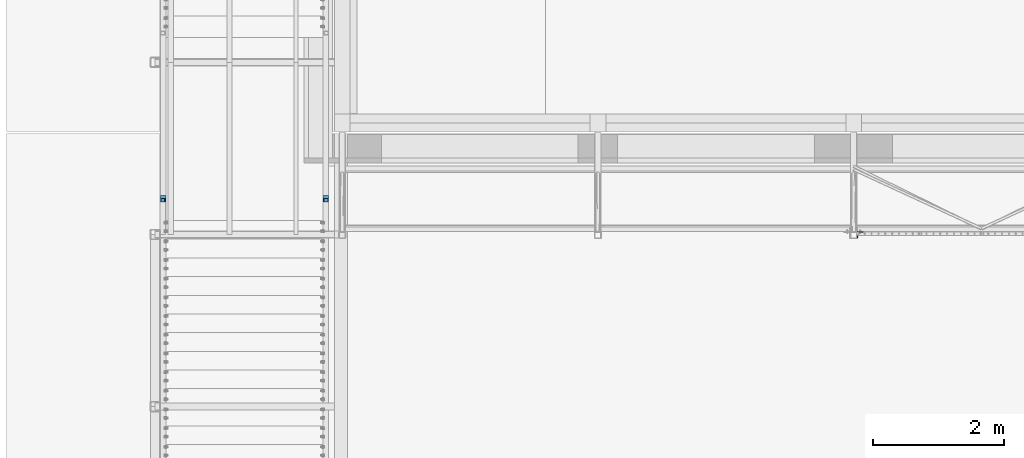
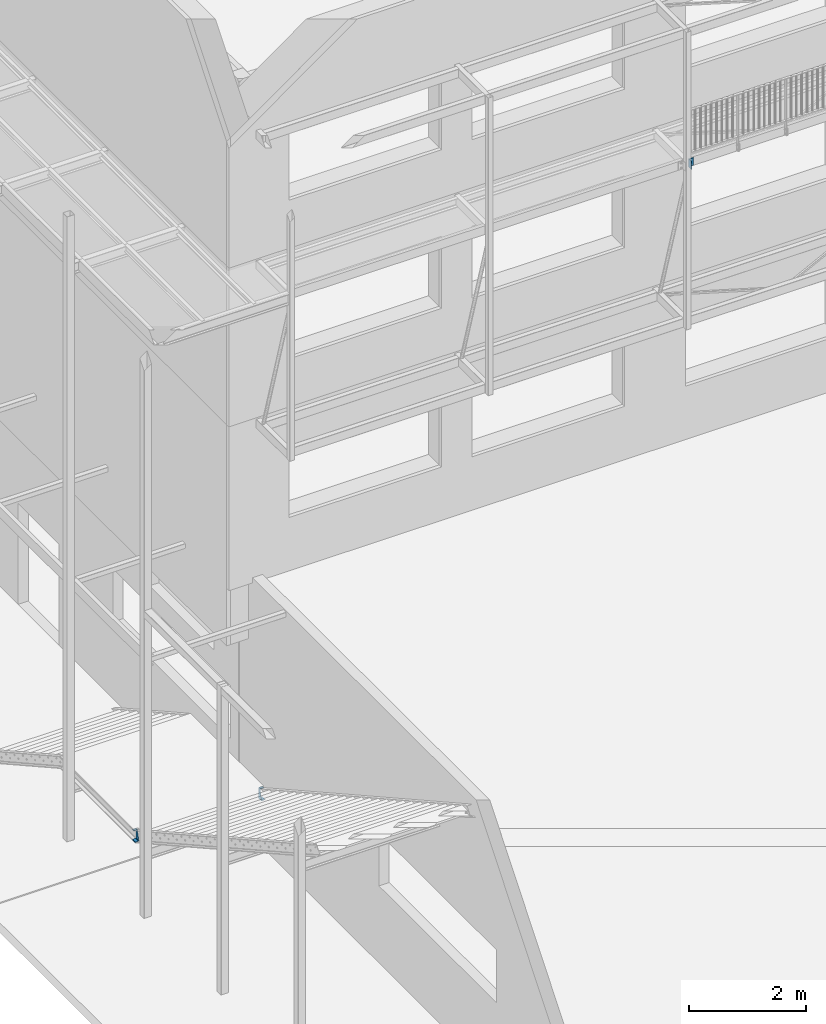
# One storey, part 34 of 78: 3 beams, 3 elements without a shape of their own.
"""IFC2X3 building model written with IfcOpenShell, lengths in millimetres."""

from ifc_helpers import new_model, si_unit, frame, origin_with_axes, origin_2d_with_axis, place, context, subcontext, project, spatial, l_section, u_section, extrude, clip, halfspace, material, type_object, element, aggregate, save


model = new_model("IFC2X3")

# Units and contexts
model_context = context("Model", 3, precision=1e-05, world=origin_with_axes())
body_context = subcontext(model_context, "Body", "Model", "MODEL_VIEW")
ifc_project = project(units=[si_unit("LENGTHUNIT", "METRE", prefix="MILLI"), si_unit("AREAUNIT", "SQUARE_METRE"), si_unit("VOLUMEUNIT", "CUBIC_METRE"), si_unit("MASSUNIT", "GRAM", prefix="KILO"), si_unit("TIMEUNIT", "SECOND"), si_unit("PLANEANGLEUNIT", "RADIAN"), si_unit("SOLIDANGLEUNIT", "STERADIAN"), si_unit("THERMODYNAMICTEMPERATUREUNIT", "DEGREE_CELSIUS"), si_unit("LUMINOUSINTENSITYUNIT", "LUMEN")], contexts=[model_context])

# Site, building, storey
site_placement = place(None, origin_with_axes())
site = spatial("IfcSite", under=ifc_project, at=site_placement, Name="Site", CompositionType="ELEMENT")
building_placement = place(site_placement, origin_with_axes())
building = spatial("IfcBuilding", under=site, at=building_placement, Name="Undefined", CompositionType="ELEMENT")
storey_placement = place(building_placement, origin_with_axes())
storey = spatial("IfcBuildingStorey", under=building, at=storey_placement, Name="Undefined", CompositionType="ELEMENT", Elevation=0.0)

# Assembly, beam
assembly_1_placement = place(storey_placement, origin_with_axes())
assembly_1 = element("IfcElementAssembly", 1, at=assembly_1_placement, inside=storey, AssemblyPlace="NOTDEFINED", PredefinedType="RIGID_FRAME")
ifc_material = material(Name="STEEL/S235JR")
beam_type_1 = type_object("IfcBeamType", Name="UPN220", PredefinedType="NOTDEFINED")
beam_1_placement = place(assembly_1_placement, frame((-30736.4300000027, -8103.23046910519, 149285.040011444), z_axis=(0.0, 0.0, 1.0), x_axis=(0.0, 1.0, 0.0)))
beam_1 = element("IfcBeam", 2, at=beam_1_placement, type_object=beam_type_1, material=ifc_material, Name="LIMON", ObjectType="UPN220", context=body_context, shape_type="Clipping", body=[
    clip(extrude(u_section(Depth=220.0, FlangeWidth=80.0, WebThickness=9.0, FlangeThickness=12.5, FilletRadius=12.5, EdgeRadius=6.5, FlangeSlope=0.0798299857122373, at=origin_2d_with_axis()), frame((46.2264151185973, 0.0, 0.0), z_axis=(-1.0, 0.0, 0.0), x_axis=(0.0, -1.0, 0.0)), (0.0, 0.0, 1.0), 103.73), halfspace(frame((-5.94641824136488e-06, 2.39502696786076e-07, 109.999999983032), z_axis=(0.9678038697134, 0.0, -0.251705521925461), x_axis=(0.0, 1.0, 0.0)), True)),
])
aggregate(assembly_1, [beam_1])

assembly_2_placement = place(storey_placement, origin_with_axes())
assembly_2 = element("IfcElementAssembly", 3, at=assembly_2_placement, inside=storey, AssemblyPlace="NOTDEFINED", PredefinedType="RIGID_FRAME")
beam_2_placement = place(assembly_2_placement, frame((-33216.4300000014, -8057.00405395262, 149285.040011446), z_axis=(0.0, 0.0, 1.0), x_axis=(0.0, -1.0, 0.0)))
beam_2 = element("IfcBeam", 4, at=beam_2_placement, type_object=beam_type_1, material=ifc_material, Name="LIMON", ObjectType="UPN220", context=body_context, shape_type="Clipping", body=[
    clip(extrude(u_section(Depth=220.0, FlangeWidth=80.0, WebThickness=9.0, FlangeThickness=12.5, FilletRadius=12.5, EdgeRadius=6.5, FlangeSlope=0.0798299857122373, at=origin_2d_with_axis()), frame((103.729894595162, 0.0, 0.0), z_axis=(-1.0, 0.0, 0.0), x_axis=(0.0, -1.0, 0.0)), (0.0, 0.0, 1.0), 103.73), halfspace(frame((46.2264151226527, 6.40284270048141e-10, 109.999999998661), z_axis=(-0.967803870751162, 0.0, -0.251705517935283), x_axis=(0.0, -1.0, 0.0)), True)),
])
aggregate(assembly_2, [beam_2])

assembly_3_placement = place(storey_placement, origin_with_axes())
assembly_3 = element("IfcElementAssembly", 5, at=assembly_3_placement, inside=storey, Name="CONSOLE", AssemblyPlace="NOTDEFINED", PredefinedType="RIGID_FRAME")
beam_type_2 = type_object("IfcBeamType", Name="L100*10", PredefinedType="NOTDEFINED")
beam_3_placement = place(assembly_3_placement, frame((-22584.9960164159, -8663.0, 159960.04), z_axis=(1.0, 0.0, 0.0), x_axis=(0.0, 0.0, -1.0)))
beam_3 = element("IfcBeam", 6, at=beam_3_placement, type_object=beam_type_2, material=ifc_material, Name="CORNIERE", ObjectType="L100*10", context=body_context, shape_type="SweptSolid", body=[
    extrude(l_section(Depth=100.0, Width=100.0, Thickness=10.0, FilletRadius=12.0, EdgeRadius=6.0, at=origin_2d_with_axis()), frame((160.0, 0.0, 0.0), z_axis=(-1.0, 0.0, 0.0), x_axis=(0.0, -1.0, 0.0)), (0.0, 0.0, 1.0), 160.0),
])
aggregate(assembly_3, [beam_3])

save(model, "model.ifc")
